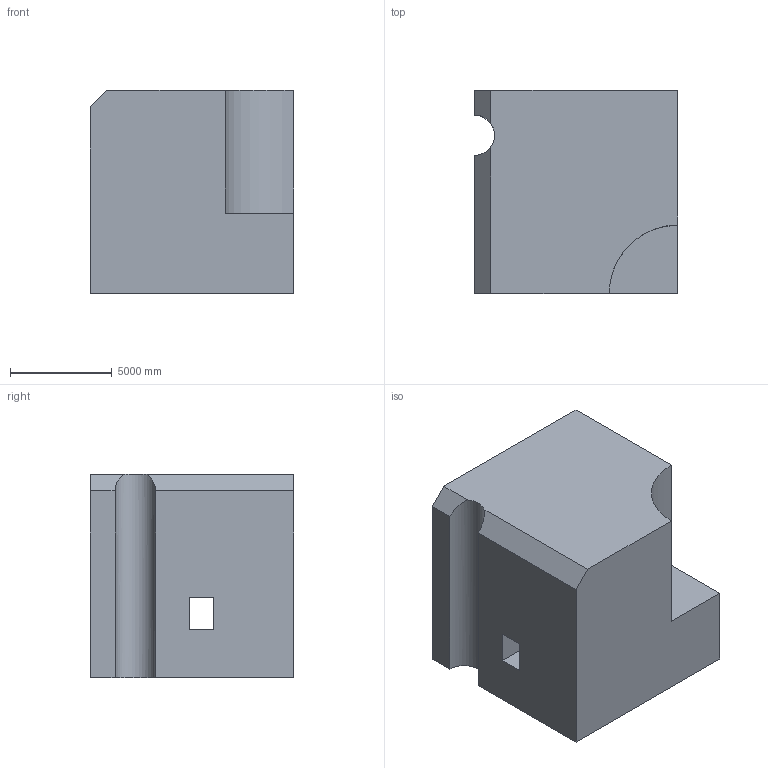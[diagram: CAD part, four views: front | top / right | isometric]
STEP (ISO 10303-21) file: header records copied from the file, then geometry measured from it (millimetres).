
FILE_DESCRIPTION (( 'STEP AP203' ), '1' );
FILE_NAME ('132.STEP', '2022-09-06T15:10:05', ( 'user' ), ( '' ), 'SwSTEP 2.0', 'SolidWorks 2021', '' );
FILE_SCHEMA (( 'CONFIG_CONTROL_DESIGN' ));
Length unit declared in the file: centimetre
Products named in the file (1): 132
Bounding box: 10000 x 10000 x 10000 mm (x, y, z)
Volume: 908995100012.4 mm3; surface area: 646411677.1 mm2
Topology: 1 solids, 1 shells, 16 faces, 42 edges, 28 vertices
Faces by surface type: plane 14, cylinder 2
Entity records: 571 total; most frequent: CARTESIAN_POINT 93, ORIENTED_EDGE 84, DIRECTION 78, EDGE_CURVE 42, LINE 36, VECTOR 36, VERTEX_POINT 28, AXIS2_PLACEMENT_3D 21
